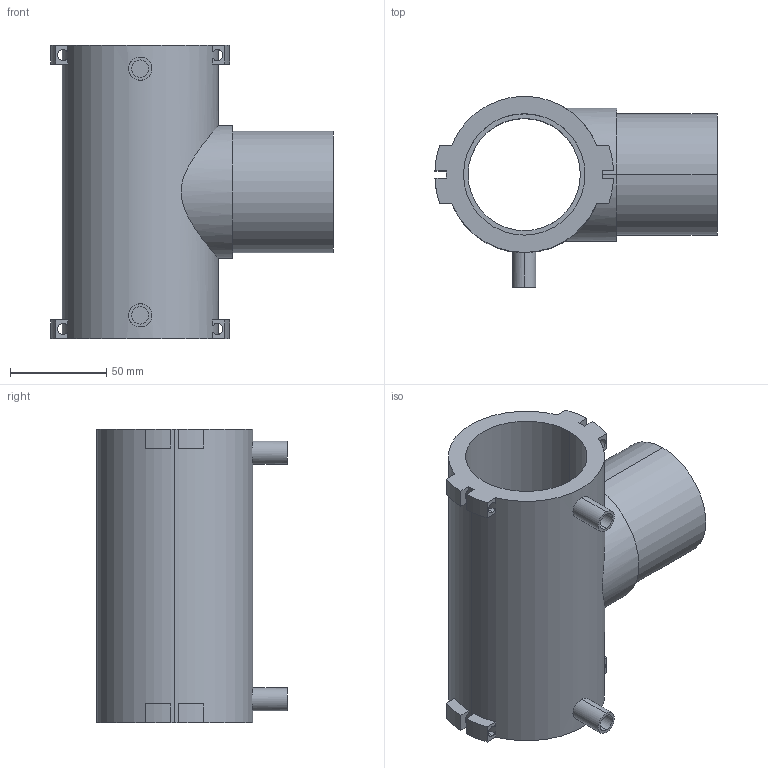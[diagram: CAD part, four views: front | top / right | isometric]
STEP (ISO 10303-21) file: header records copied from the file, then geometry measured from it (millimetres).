
FILE_DESCRIPTION (( 'STEP AP203' ), '1' );
FILE_NAME ('KP_28-63.step', '2011-08-08T11:39:30', ( '' ), ( '' ), 'SwSTEP 2.0', 'SolidWorks 2011', '' );
FILE_SCHEMA (( 'CONFIG_CONTROL_DESIGN' ));
Length unit declared in the file: millimetre
Products named in the file (1): KP_28-63
Bounding box: 146.31 x 99 x 152 mm (x, y, z)
Volume: 395163.8 mm3; surface area: 100372.8 mm2
Topology: 1 solids, 1 shells, 88 faces, 260 edges, 172 vertices
Faces by surface type: cylinder 54, plane 34
Entity records: 3716 total; most frequent: CARTESIAN_POINT 1228, ORIENTED_EDGE 520, DIRECTION 498, EDGE_CURVE 260, AXIS2_PLACEMENT_3D 189, VERTEX_POINT 172, VECTOR 120, LINE 120
